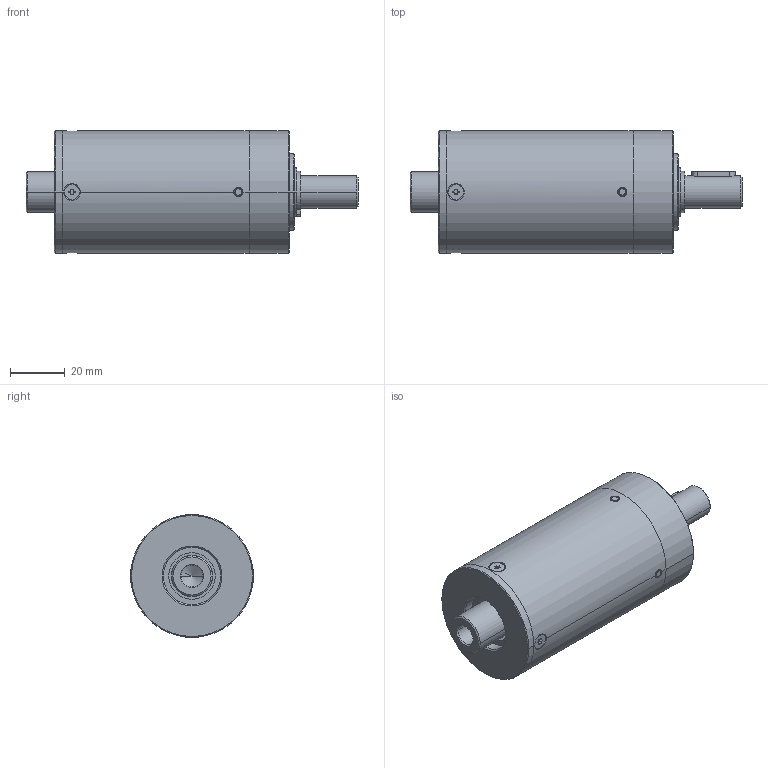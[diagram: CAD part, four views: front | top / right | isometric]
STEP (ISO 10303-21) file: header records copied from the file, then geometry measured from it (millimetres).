
FILE_DESCRIPTION((''),'2;1');
FILE_NAME('IMS45_PRO_MAX_3_STAGE_ASM','2023-07-27T13:29:17',('mhummel'),(''),'CREO PARAMETRIC BY PTC INC, 2020184','CREO PARAMETRIC BY PTC INC, 2020184','');
FILE_SCHEMA(('AUTOMOTIVE_DESIGN { 1 0 10303 214 1 1 1 1 }'));
Length unit declared in the file: millimetre
Products named in the file (16): IMS45_PRO_MAX_BEARING_FLANGE; IMS45_PRO_MAX_BALL_BEARING; IMS45_PRO_MAX_RING_GEAR_3; IMS45_PRO_MAX_CYLINDER_PIN; IMS45_PRO_MAX_RING_GEAR_3_STAGE_ASM; IMS45_PRO_MAX_MOTOR_FLANGE; IMS45_PRO_MAX_SHAFT_RAW_AF0; IMS45_PRO_MAX_SHAFT_ASM; IMS45_PRO_MAX_SHIM_RING; IMS45_PRO_MAX_RETAINING_RING_A; IMS45_PRO_MAX_FEATHER_KEY; IMS45_PRO_MAX_THRUST_WASHER; IMS45_PRO_MAX_SCREW; IMS45_PRO_MAX_MO_PINION_LONG; IMS45_PRO_MAX_MO_PINION_SHORT; IMS45_PRO_MAX_3_STAGE_ASM
Assembly tree (22 placements, depth 3):
  IMS45_PRO_MAX_3_STAGE_ASM
    IMS45_PRO_MAX_BEARING_FLANGE
    IMS45_PRO_MAX_BALL_BEARING  x2
    IMS45_PRO_MAX_RING_GEAR_3_STAGE_ASM
      IMS45_PRO_MAX_RING_GEAR_3
      IMS45_PRO_MAX_CYLINDER_PIN  x4
    IMS45_PRO_MAX_MOTOR_FLANGE
    IMS45_PRO_MAX_SHAFT_ASM
      IMS45_PRO_MAX_SHAFT_RAW_AF0
    IMS45_PRO_MAX_SHIM_RING
    IMS45_PRO_MAX_RETAINING_RING_A
    IMS45_PRO_MAX_FEATHER_KEY
    IMS45_PRO_MAX_THRUST_WASHER
    IMS45_PRO_MAX_SCREW  x4
    IMS45_PRO_MAX_MO_PINION_LONG
    IMS45_PRO_MAX_MO_PINION_SHORT
Bounding box: 121.75 x 45 x 45 mm (x, y, z)
Volume: 97264.2 mm3; surface area: 49462.3 mm2
Topology: 24 solids, 26 shells, 477 faces, 1071 edges, 642 vertices
Faces by surface type: cylinder 202, plane 119, cone 82, torus 58, revolution 16
Entity records: 12814 total; most frequent: CARTESIAN_POINT 2155, DIRECTION 1703, ORIENTED_EDGE 1350, PRESENTATION_STYLE_ASSIGNMENT 767, STYLED_ITEM 765, AXIS2_PLACEMENT_3D 712, CURVE_STYLE 679, EDGE_CURVE 675
